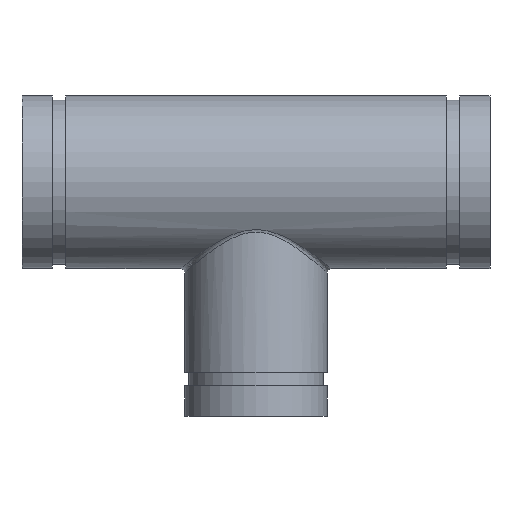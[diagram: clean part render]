
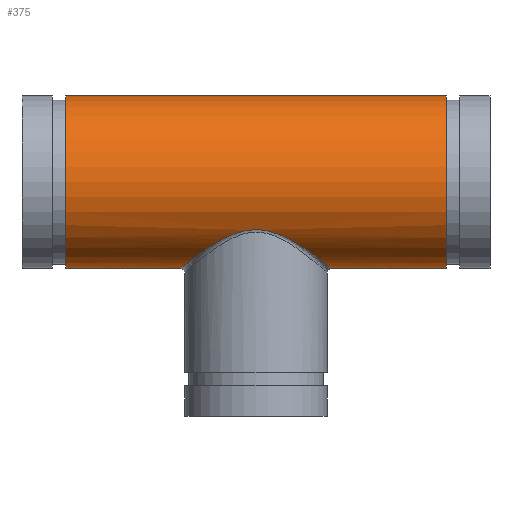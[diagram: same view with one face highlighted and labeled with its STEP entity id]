
A CAD part, top view. The second image highlights one B-rep face of the part: STEP entity #375.
In plain terms, the highlighted cylindrical face has radius 60.96 mm (diameter 121.92 mm), a full revolution.
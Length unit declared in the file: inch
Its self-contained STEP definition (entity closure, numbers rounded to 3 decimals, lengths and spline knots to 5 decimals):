
#54=FACE_BOUND('',#119,.T.);
#65=LINE('',#861,#76);
#76=VECTOR('',#483,2.4);
#87=CYLINDRICAL_SURFACE('',#415,2.4);
#98=FACE_OUTER_BOUND('',#118,.T.);
#118=EDGE_LOOP('',(#266,#267,#268,#269));
#119=EDGE_LOOP('',(#270));
#150=B_SPLINE_CURVE_WITH_KNOTS('',3,(#823,#824,#825,#826,#827,#828,#829,
#830,#831,#832,#833,#834,#835,#836,#837,#838,#839,#840,#841,#842,#843,#844,
#845,#846,#847,#848,#849,#850,#851,#852,#853,#854,#855,#856),
 .UNSPECIFIED.,.T.,.F.,(4,1,1,1,1,1,1,1,1,1,1,1,1,1,1,1,1,1,1,1,1,1,1,1,
1,1,1,1,1,1,1,4),(-32.74152,-32.15685,-31.57218,-30.40284,
-29.2335,-28.06416,-26.50504,-25.72548,-24.94592,
-23.3868,-21.82768,-20.26856,-18.70944,-17.92988,
-17.15032,-16.37076,-15.5912,-14.81164,-14.03208,
-12.47296,-10.91384,-10.13428,-9.35472,-7.7956,
-6.23648,-5.45692,-4.67736,-3.50802,-2.33868,
-1.16934,-0.58467,0.),.UNSPECIFIED.);
#154=CIRCLE('',#416,2.4);
#155=CIRCLE('',#417,2.4);
#182=VERTEX_POINT('',#781);
#185=VERTEX_POINT('',#858);
#186=VERTEX_POINT('',#860);
#219=EDGE_CURVE('',#182,#182,#150,.T.);
#220=EDGE_CURVE('',#185,#185,#154,.T.);
#221=EDGE_CURVE('',#185,#186,#65,.T.);
#222=EDGE_CURVE('',#186,#186,#155,.T.);
#266=ORIENTED_EDGE('',*,*,#220,.T.);
#267=ORIENTED_EDGE('',*,*,#221,.T.);
#268=ORIENTED_EDGE('',*,*,#222,.T.);
#269=ORIENTED_EDGE('',*,*,#221,.F.);
#270=ORIENTED_EDGE('',*,*,#219,.F.);
#375=ADVANCED_FACE('',(#98,#54),#87,.T.);
#415=AXIS2_PLACEMENT_3D('',#857,#479,#480);
#416=AXIS2_PLACEMENT_3D('',#859,#481,#482);
#417=AXIS2_PLACEMENT_3D('',#862,#484,#485);
#479=DIRECTION('center_axis',(-1.,0.,0.));
#480=DIRECTION('ref_axis',(0.,-1.,0.));
#481=DIRECTION('center_axis',(1.,0.,0.));
#482=DIRECTION('ref_axis',(0.,-1.,0.));
#483=DIRECTION('',(1.,0.,0.));
#484=DIRECTION('center_axis',(-1.,0.,0.));
#485=DIRECTION('ref_axis',(0.,-1.,0.));
#781=CARTESIAN_POINT('',(0.,-1.32546,-2.00079));
#823=CARTESIAN_POINT('Ctrl Pts',(0.,-1.32546,
-2.00079));
#824=CARTESIAN_POINT('Ctrl Pts',(0.08413,-1.32546,-2.00079));
#825=CARTESIAN_POINT('Ctrl Pts',(0.25226,-1.34017,-1.99115));
#826=CARTESIAN_POINT('Ctrl Pts',(0.57429,-1.42134,-1.93543));
#827=CARTESIAN_POINT('Ctrl Pts',(0.9369,-1.5866,-1.80864));
#828=CARTESIAN_POINT('Ctrl Pts',(1.31369,-1.8158,-1.58209));
#829=CARTESIAN_POINT('Ctrl Pts',(1.67069,-2.06495,-1.25166));
#830=CARTESIAN_POINT('Ctrl Pts',(1.91715,-2.25267,-0.86975));
#831=CARTESIAN_POINT('Ctrl Pts',(2.05356,-2.35924,-0.4754));
#832=CARTESIAN_POINT('Ctrl Pts',(2.1255,-2.41629,-0.05604));
#833=CARTESIAN_POINT('Ctrl Pts',(2.07863,-2.37888,0.48568));
#834=CARTESIAN_POINT('Ctrl Pts',(1.82429,-2.17985,1.05552));
#835=CARTESIAN_POINT('Ctrl Pts',(1.43439,-1.89471,1.49995));
#836=CARTESIAN_POINT('Ctrl Pts',(1.02589,-1.63467,1.76515));
#837=CARTESIAN_POINT('Ctrl Pts',(0.64809,-1.4541,1.91132));
#838=CARTESIAN_POINT('Ctrl Pts',(0.33625,-1.35229,1.98338));
#839=CARTESIAN_POINT('Ctrl Pts',(0.00001,-1.31192,
2.00954));
#840=CARTESIAN_POINT('Ctrl Pts',(-0.33629,-1.35233,1.98336));
#841=CARTESIAN_POINT('Ctrl Pts',(-0.64808,-1.45408,1.91134));
#842=CARTESIAN_POINT('Ctrl Pts',(-1.02587,-1.63466,1.76514));
#843=CARTESIAN_POINT('Ctrl Pts',(-1.43421,-1.89451,1.50012));
#844=CARTESIAN_POINT('Ctrl Pts',(-1.75946,-2.13243,1.12954));
#845=CARTESIAN_POINT('Ctrl Pts',(-1.95123,-2.27924,0.77084));
#846=CARTESIAN_POINT('Ctrl Pts',(-2.08815,-2.3864,0.37744));
#847=CARTESIAN_POINT('Ctrl Pts',(-2.13483,-2.42381,-0.16454));
#848=CARTESIAN_POINT('Ctrl Pts',(-1.99933,-2.31612,-0.68195));
#849=CARTESIAN_POINT('Ctrl Pts',(-1.80749,-2.16919,-1.03945));
#850=CARTESIAN_POINT('Ctrl Pts',(-1.59953,-2.01525,-1.31759));
#851=CARTESIAN_POINT('Ctrl Pts',(-1.3136,-1.81577,-1.58214));
#852=CARTESIAN_POINT('Ctrl Pts',(-0.93708,-1.58669,-1.80855));
#853=CARTESIAN_POINT('Ctrl Pts',(-0.57422,-1.42131,-1.93547));
#854=CARTESIAN_POINT('Ctrl Pts',(-0.25228,-1.34018,-1.99113));
#855=CARTESIAN_POINT('Ctrl Pts',(-0.08413,-1.32546,
-2.00079));
#856=CARTESIAN_POINT('Ctrl Pts',(0.,-1.32546,
-2.00079));
#857=CARTESIAN_POINT('Origin',(6.5,0.,0.));
#858=CARTESIAN_POINT('',(-5.285,2.4,0.));
#859=CARTESIAN_POINT('Origin',(-5.285,0.,0.));
#860=CARTESIAN_POINT('',(5.285,2.4,0.));
#861=CARTESIAN_POINT('',(6.5,2.4,0.));
#862=CARTESIAN_POINT('Origin',(5.285,0.,0.));
